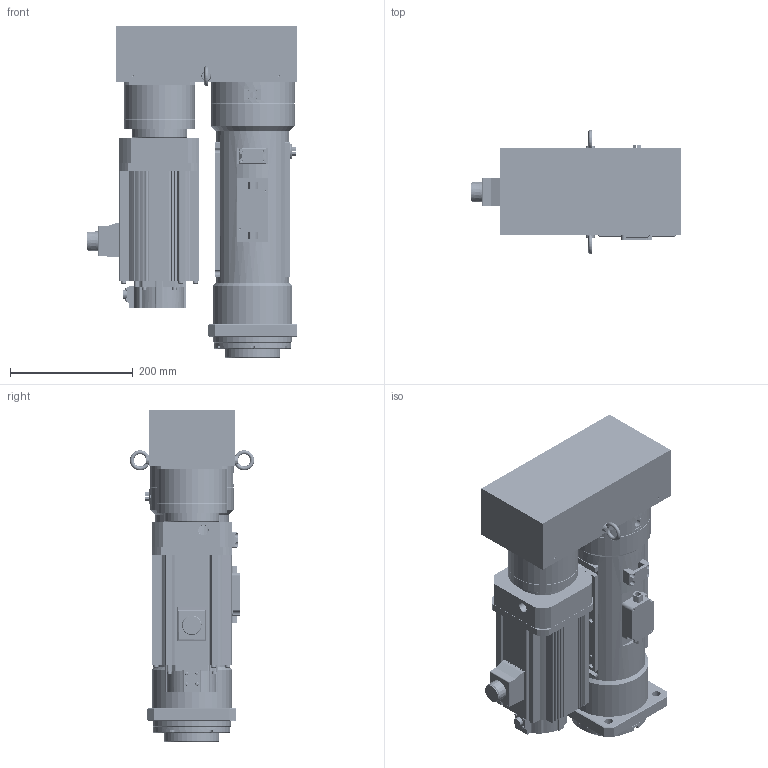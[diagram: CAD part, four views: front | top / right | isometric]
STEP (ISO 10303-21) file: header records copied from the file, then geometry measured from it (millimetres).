
FILE_DESCRIPTION( ('This file contains a STEP AP42 implementation' ,'as created by ZW3D STEP Interface translator.') ,'2;1' );
FILE_NAME( 'OACIS-DC-P035-P040-150-180-A6V200_V20.51.stp' ,'26 428.144741', (''), ('ZWCAD Software Co.'), 'Version 1.0', 'ZW3D to STEP translator', '' );
FILE_SCHEMA(('AUTOMOTIVE_DESIGN { 1 0 10303 214 1 1 1 1 }'));
Length unit declared in the file: millimetre
Products named in the file (1): 0
Bounding box: 342.5 x 202.25 x 541 mm (x, y, z)
Volume: 11054068.3 mm3; surface area: 1802324.9 mm2
Topology: 55 solids, 55 shells, 3334 faces, 8561 edges, 5481 vertices
Faces by surface type: cylinder 1630, plane 1232, cone 341, torus 101, bspline 26, sphere 4
Full cylindrical faces by diameter (mm): 1.567 x4, 2 x1, 2.459 x1, 3.3 x58, 4.2 x4, 4.3 x15, 4.5 x14, 4.917 x20, 5 x1, 5.3 x4, 5.5 x4, 6 x8, 6.5 x4, 6.647 x6, 6.8 x41, 7 x4, 8 x17, 8.4 x8, 8.5 x4, 9 x26, 9.5 x4, 9.78 x8, 10 x3, 10.1 x4, 10.106 x1, 10.2 x16, 10.5 x4, 12 x1, 14 x4, 14.8 x1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
Entity records: 119081 total; most frequent: CARTESIAN_POINT 28237, DIRECTION 19048, ORIENTED_EDGE 16934, EDGE_CURVE 8467, AXIS2_PLACEMENT_3D 7585, VERTEX_POINT 5478, CIRCLE 4257, EDGE_LOOP 3933
